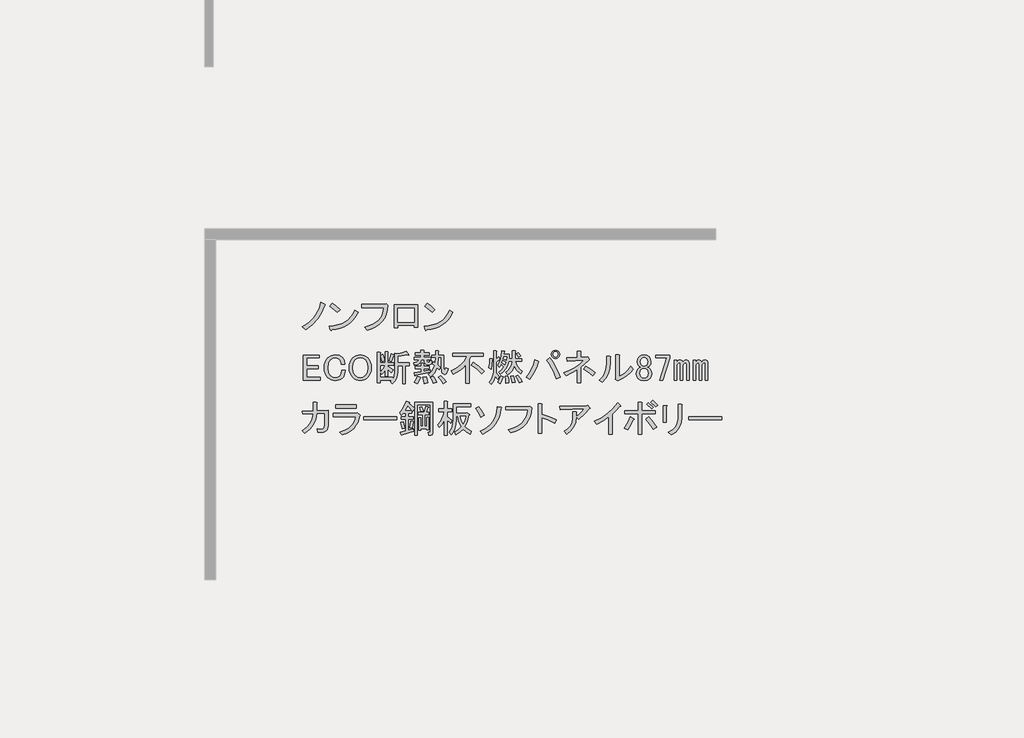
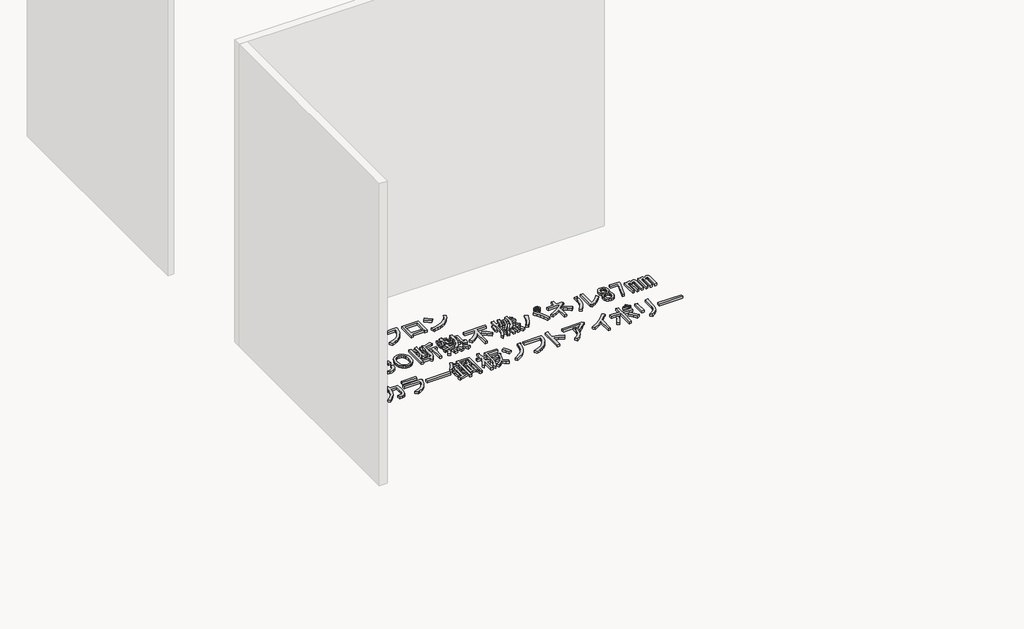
# One storey, part 51 of 117: 1 proxy.
"""IFC4 building model written with IfcOpenShell, lengths in millimetres."""

from ifc_helpers import new_model, si_unit, frame, origin, place, context, project, spatial, polyline, outline, extrude, element, save

model = new_model("IFC4")

# Units and contexts
model_context = context("Model", 3, world=origin())
ifc_project = project(units=[si_unit("LENGTHUNIT", "METRE", prefix="MILLI")], contexts=[model_context])

# Site, building, storey
site = spatial("IfcSite", under=ifc_project)
building = spatial("IfcBuilding", under=site)
storey = spatial("IfcBuildingStorey", under=building, Name="レベル 1", Elevation=500.0)

# Proxy
placement = place(None, origin())
element("IfcBuildingElementProxy", 1, Name="200㎜\u3000MS Pゴシック", ObjectType="200㎜\u3000MS Pゴシック", at=placement, inside=storey, context=model_context, shape_type="SweptSolid", body=[
    extrude(outline(polyline([(24937.1706985, -600.5496882), (24911.5952502, -660.3215225), (24883.146156, -706.2998566), (24841.4782907, -751.7034615), (24792.3389462, -789.060858), (24764.7519457, -767.2211493), (24812.4544673, -736.7605029), (24852.1107805, -698.2536481), (24869.4963381, -674.3305462), (24884.8703435, -646.2406577), (24898.2327969, -613.9839827), (24909.5836981, -577.5605212), (24940.6190736, -591.3540214), (24943.7800841, -595.9518548), (24937.1706985, -600.5496882)])), frame((0.0, 0.0, 500.0), z_axis=(0.0, 0.0, 1.0), x_axis=(1.0, 0.0, 0.0)), (0.0, 0.0, 1.0), 25.0),
    extrude(outline(polyline([(25036.8977052, -655.7236891), (24978.2753292, -608.5958967), (24997.8161212, -584.4572713), (25025.1157571, -604.2854279), (25058.7374138, -633.8839804), (25036.8977052, -655.7236891)])), frame((0.0, 0.0, 500.0), z_axis=(0.0, 0.0, 1.0), x_axis=(1.0, 0.0, 0.0)), (0.0, 0.0, 1.0), 25.0),
    extrude(outline(polyline([(25198.9713328, -655.7236891), (25182.447869, -685.465924), (25163.3381239, -711.4724192), (25141.6420975, -733.7431748), (25117.3597898, -752.2781907), (25090.4912008, -767.077467), (25061.0363306, -778.1410036), (25028.995179, -785.4688006), (24994.3677461, -789.060858), (24988.6204544, -797.1070664), (24982.8731626, -791.3597747), (24973.6774958, -761.4738575), (25009.5082679, -758.7977748), (25042.2857912, -752.4937141), (25072.0100658, -742.5616756), (25098.6810916, -729.0016591), (25122.2988687, -711.8136646), (25142.863397, -690.9976923), (25160.3746766, -666.553742), (25174.8327074, -638.4818138), (25198.9713328, -655.7236891)])), frame((0.0, 0.0, 500.0), z_axis=(0.0, 0.0, 1.0), x_axis=(1.0, 0.0, 0.0)), (0.0, 0.0, 1.0), 25.0),
    extrude(outline(polyline([(25249.7314136, -770.6695243), (25283.514713, -760.9889298), (25313.0234641, -748.6142922), (25338.257667, -733.5456116), (25359.2173217, -715.782888), (25375.902428, -695.3261214), (25388.3129862, -672.1753118), (25396.4489961, -646.3304591), (25400.3104577, -617.7915635), (25227.8917049, -617.7915635), (25227.8917049, -592.5034798), (25402.6093744, -592.5034798), (25418.7017914, -589.0551047), (25431.3458332, -600.5496882), (25427.825617, -637.0449909), (25419.5638851, -670.0919185), (25406.5606375, -699.6904711), (25388.8158742, -725.8406486), (25366.3295952, -748.542451), (25339.1018005, -767.7958784), (25307.1324901, -783.6009308), (25270.421664, -795.9576081), (25249.7314136, -770.6695243)])), frame((0.0, 0.0, 500.0), z_axis=(0.0, 0.0, 1.0), x_axis=(1.0, 0.0, 0.0)), (0.0, 0.0, 1.0), 25.0),
    extrude(outline(polyline([(25664.455987, -769.520066), (25638.0184449, -769.520066), (25638.0184449, -756.8760241), (25510.4285679, -756.8760241), (25510.4285679, -775.2673577), (25483.9910258, -775.2673577), (25483.9910258, -595.9518548), (25664.455987, -595.9518548), (25664.455987, -769.520066)]), holes=[polyline([(25510.4285679, -621.2399386), (25510.4285679, -731.5879404), (25638.0184449, -731.5879404), (25638.0184449, -621.2399386), (25510.4285679, -621.2399386)])]), frame((0.0, 0.0, 500.0), z_axis=(0.0, 0.0, 1.0), x_axis=(1.0, 0.0, 0.0)), (0.0, 0.0, 1.0), 25.0),
    extrude(outline(polyline([(25940.5099049, -655.7236891), (25923.9864411, -685.465924), (25904.876696, -711.4724192), (25883.1806696, -733.7431748), (25858.8983619, -752.2781907), (25832.0297729, -767.077467), (25802.5749026, -778.1410036), (25770.5337511, -785.4688006), (25735.9063182, -789.060858), (25730.1590264, -797.1070664), (25724.4117347, -791.3597747), (25715.2160679, -761.4738575), (25751.0468399, -758.7977748), (25783.8243633, -752.4937141), (25813.5486378, -742.5616756), (25840.2196637, -729.0016591), (25863.8374407, -711.8136646), (25884.4019691, -690.9976923), (25901.9132486, -666.553742), (25916.3712795, -638.4818138), (25940.5099049, -655.7236891)])), frame((0.0, 0.0, 500.0), z_axis=(0.0, 0.0, 1.0), x_axis=(1.0, 0.0, 0.0)), (0.0, 0.0, 1.0), 25.0),
    extrude(outline(polyline([(25778.4362772, -655.7236891), (25719.8139013, -608.5958967), (25739.3546933, -584.4572713), (25766.6543291, -604.2854279), (25800.2759859, -633.8839804), (25778.4362772, -655.7236891)])), frame((0.0, 0.0, 500.0), z_axis=(0.0, 0.0, 1.0), x_axis=(1.0, 0.0, 0.0)), (0.0, 0.0, 1.0), 25.0),
    extrude(outline(polyline([(24770.4992375, -989.0551047), (24896.9396562, -989.0551047), (24896.9396562, -1010.8948134), (24796.9367796, -1010.8948134), (24796.9367796, -1071.816106), (24890.0429061, -1071.816106), (24890.0429061, -1093.6558147), (24796.9367796, -1093.6558147), (24796.9367796, -1163.7727742), (24902.686948, -1163.7727742), (24902.686948, -1185.6124829), (24770.4992375, -1185.6124829), (24770.4992375, -989.0551047)])), frame((0.0, 0.0, 500.0), z_axis=(0.0, 0.0, 1.0), x_axis=(1.0, 0.0, 0.0)), (0.0, 0.0, 1.0), 25.0),
    extrude(outline(polyline([(24934.7798252, -1087.908523), (24936.5758538, -1063.985421), (24941.9639399, -1042.7922827), (24950.9440832, -1024.3291079), (24963.516284, -1008.5958967), (24988.5170031, -992.2161152), (25019.8397432, -986.756188), (25050.5877541, -991.641386), (25073.8642858, -1006.29698), (25089.6693381, -1029.8608762), (25095.7039944, -1059.1720642), (25068.116994, -1059.1720642), (25063.231796, -1037.9070847), (25053.1740354, -1022.3893969), (25037.9437123, -1012.0442717), (25019.8397432, -1008.5958967), (25000.2989512, -1012.6190009), (24983.0570759, -1024.6883136), (24974.0050914, -1036.3984206), (24967.5393882, -1050.8384911), (24962.3668256, -1087.908523), (24967.5393882, -1124.9785548), (24974.0050914, -1139.4186254), (24983.0570759, -1151.1287323), (24999.7242221, -1162.3359513), (25019.8397432, -1166.0716909), (25040.242629, -1162.9106804), (25055.4729521, -1153.427649), (25067.5422648, -1133.8868571), (25071.5653691, -1107.449315), (25099.1523695, -1107.449315), (25092.8303486, -1142.2204301), (25085.7899162, -1156.3731361), (25076.1632025, -1168.3706076), (25065.3151893, -1176.9197041), (25052.3119417, -1183.0262016), (25019.8397432, -1187.9113996), (24988.5170031, -1182.4514724), (24963.516284, -1166.0716909), (24950.9440832, -1150.4103209), (24941.9639399, -1132.1626695), (24936.5758538, -1111.3287369), (24934.7798252, -1087.908523)])), frame((0.0, 0.0, 500.0), z_axis=(0.0, 0.0, 1.0), x_axis=(1.0, 0.0, 0.0)), (0.0, 0.0, 1.0), 25.0),
    extrude(outline(polyline([(25130.1417667, -1086.7590646), (25131.8659542, -1063.9135799), (25137.0385168, -1043.6543764), (25145.6594544, -1025.9814543), (25157.7287671, -1010.8948134), (25170.4446501, -1000.3341648), (25184.4536738, -992.7908443), (25199.7558381, -988.2648521), (25216.3511431, -986.756188), (25232.946448, -988.2648521), (25248.2486123, -992.7908443), (25262.257636, -1000.3341648), (25274.973519, -1010.8948134), (25287.0428317, -1025.9814543), (25295.6637694, -1043.6543764), (25300.836332, -1063.9135799), (25302.5605195, -1086.7590646), (25300.836332, -1109.6045494), (25295.6637694, -1129.8637528), (25287.0428317, -1147.536675), (25274.973519, -1162.6233159), (25262.257636, -1173.1839645), (25248.2486123, -1180.7272849), (25232.946448, -1185.2532772), (25216.3511431, -1186.7619413), (25199.7558381, -1185.2532772), (25184.4536738, -1180.7272849), (25170.4446501, -1173.1839645), (25157.7287671, -1162.6233159), (25145.6594544, -1147.536675), (25137.0385168, -1129.8637528), (25131.8659542, -1109.6045494), (25130.1417667, -1086.7590646)]), holes=[polyline([(25216.3511431, -1008.5958967), (25195.6608927, -1012.9063655), (25177.2695591, -1025.837772), (25168.7204626, -1036.9731498), (25162.6139651, -1050.8384911), (25157.7287671, -1086.7590646), (25162.6139651, -1122.6796381), (25168.7204626, -1136.5449795), (25177.2695591, -1147.6803573), (25195.6608927, -1160.6117637), (25216.3511431, -1164.9222326), (25237.0413934, -1160.6117637), (25255.432727, -1147.6803573), (25263.9818235, -1136.5449795), (25270.088321, -1122.6796381), (25274.973519, -1086.7590646), (25270.088321, -1050.8384911), (25263.9818235, -1036.9731498), (25255.432727, -1025.837772), (25237.0413934, -1012.9063655), (25216.3511431, -1008.5958967)])]), frame((0.0, 0.0, 500.0), z_axis=(0.0, 0.0, 1.0), x_axis=(1.0, 0.0, 0.0)), (0.0, 0.0, 1.0), 25.0),
    extrude(outline(polyline([(25441.3691101, -1032.7345221), (25458.6109854, -979.8594379), (25479.3012357, -985.6067296), (25481.0254232, -988.7677401), (25477.002319, -991.3540214), (25459.7604437, -1039.6312722), (25441.3691101, -1032.7345221)])), frame((0.0, 0.0, 500.0), z_axis=(0.0, 0.0, 1.0), x_axis=(1.0, 0.0, 0.0)), (0.0, 0.0, 1.0), 25.0),
    extrude(outline(polyline([(25595.3965292, -984.4572713), (25593.6723417, -989.0551047), (25586.2008624, -986.756188), (25509.1871528, -999.4002299), (25509.1871528, -1048.826939), (25601.143821, -1048.826939), (25601.143821, -1070.6666477), (25570.1084455, -1070.6666477), (25570.1084455, -1210.9005666), (25547.1192785, -1210.9005666), (25547.1192785, -1070.6666477), (25509.1871528, -1070.6666477), (25509.1871528, -1120.0933568), (25506.6008716, -1147.8958807), (25498.8420277, -1172.6810764), (25485.9106212, -1194.448944), (25467.8066522, -1213.1994833), (25450.5647769, -1193.6586914), (25460.9099021, -1184.4630245), (25371.2521506, -1184.4630245), (25371.2521506, -1206.3027332), (25348.2629836, -1206.3027332), (25348.2629836, -967.215396), (25370.1026922, -967.215396), (25374.9878902, -969.5143127), (25371.2521506, -974.1121461), (25371.2521506, -1049.9763974), (25413.7821096, -1049.9763974), (25413.7821096, -962.6175626), (25432.1734433, -962.6175626), (25437.0586413, -964.9164793), (25433.3229016, -969.5143127), (25433.3229016, -1049.9763974), (25477.002319, -1049.9763974), (25477.002319, -1068.367731), (25433.3229016, -1068.367731), (25433.3229016, -1077.5633978), (25473.5539439, -1104.0009399), (25459.7604437, -1125.8406486), (25433.3229016, -1099.4031065), (25433.3229016, -1152.2781907), (25413.7821096, -1152.2781907), (25413.7821096, -1104.0009399), (25400.5633386, -1123.8290965), (25386.1951092, -1139.6341488), (25373.5510673, -1121.2428152), (25395.390776, -1097.1041898), (25412.6326513, -1068.367731), (25371.2521506, -1068.367731), (25371.2521506, -1162.6233159), (25468.9561105, -1162.6233159), (25468.9561105, -1176.4168161), (25481.887517, -1152.2781907), (25486.1979858, -1118.9438985), (25486.1979858, -974.1121461), (25508.0376945, -979.8594379), (25544.2456326, -972.3879586), (25574.7062789, -959.1691875), (25595.3965292, -984.4572713)])), frame((0.0, 0.0, 500.0), z_axis=(0.0, 0.0, 1.0), x_axis=(1.0, 0.0, 0.0)), (0.0, 0.0, 1.0), 25.0),
    extrude(outline(polyline([(25387.3445675, -1040.7807305), (25374.7005257, -990.2045631), (25394.2413176, -983.3078129), (25402.0001615, -1007.4464383), (25406.8853595, -1033.8839804), (25387.3445675, -1040.7807305)])), frame((0.0, 0.0, 500.0), z_axis=(0.0, 0.0, 1.0), x_axis=(1.0, 0.0, 0.0)), (0.0, 0.0, 1.0), 25.0),
    extrude(outline(polyline([(25731.0326148, -1156.8760241), (25741.0903754, -1184.17566), (25745.9755734, -1206.3027332), (25717.2391146, -1212.050025), (25714.6528333, -1190.4976809), (25706.8939894, -1160.3243992), (25731.0326148, -1156.8760241)])), frame((0.0, 0.0, 500.0), z_axis=(0.0, 0.0, 1.0), x_axis=(1.0, 0.0, 0.0)), (0.0, 0.0, 1.0), 25.0),
    extrude(outline(polyline([(25787.356074, -1209.7511083), (25779.022501, -1185.0377537), (25765.5163654, -1163.7727742), (25786.2066157, -1155.7265657), (25803.1611264, -1177.2789098), (25814.9430745, -1200.5554415), (25787.356074, -1209.7511083)])), frame((0.0, 0.0, 500.0), z_axis=(0.0, 0.0, 1.0), x_axis=(1.0, 0.0, 0.0)), (0.0, 0.0, 1.0), 25.0),
    extrude(outline(polyline([(25686.2037391, -1161.4738575), (25689.6521141, -1166.3590555), (25683.9048224, -1169.520066), (25674.1344264, -1195.0955143), (25663.214572, -1214.3489417), (25640.225405, -1202.8543582), (25652.8694469, -1179.290462), (25663.214572, -1152.2781907), (25686.2037391, -1161.4738575)])), frame((0.0, 0.0, 500.0), z_axis=(0.0, 0.0, 1.0), x_axis=(1.0, 0.0, 0.0)), (0.0, 0.0, 1.0), 25.0),
    extrude(outline(polyline([(25718.3885729, -1024.6883136), (25693.1004892, -1024.6883136), (25688.5026558, -1042.1457123), (25678.1575306, -1055.4363245), (25662.0651137, -1064.5601502), (25640.225405, -1069.5171893), (25635.6275716, -1049.9763974), (25660.9156553, -1041.3554597), (25668.3871346, -1034.0276627), (25672.4102388, -1024.6883136), (25636.7770299, -1024.6883136), (25636.7770299, -1006.29698), (25690.8015725, -1006.29698), (25690.8015725, -989.0551047), (25647.1221551, -989.0551047), (25647.1221551, -970.6637711), (25690.8015725, -970.6637711), (25690.8015725, -952.2724374), (25712.6412812, -952.2724374), (25717.5264792, -954.5713541), (25713.7907395, -959.1691875), (25713.7907395, -970.6637711), (25756.3206985, -970.6637711), (25756.3206985, -989.0551047), (25713.7907395, -989.0551047), (25713.7907395, -1006.29698), (25766.6658237, -1006.29698), (25766.6658237, -1024.6883136), (25737.9293649, -1024.6883136), (25737.9293649, -1037.3323555), (25739.3661878, -1042.5049181), (25743.6766567, -1044.2291056), (25754.0217818, -1044.2291056), (25757.7575215, -1041.0680951), (25757.4701569, -1031.5850637), (25777.0109489, -1033.8839804), (25774.137303, -1055.4363245), (25768.8210581, -1060.8244106), (25760.9185319, -1062.6204392), (25736.7799066, -1062.6204392), (25722.9864063, -1057.7352412), (25718.3885729, -1043.0796472), (25718.3885729, -1024.6883136)])), frame((0.0, 0.0, 500.0), z_axis=(0.0, 0.0, 1.0), x_axis=(1.0, 0.0, 0.0)), (0.0, 0.0, 1.0), 25.0),
    extrude(outline(polyline([(25849.4268251, -1007.4464383), (25827.5871164, -1007.4464383), (25822.989283, -1064.9193559), (25842.5300749, -1083.3106896), (25832.1849498, -1105.1503983), (25816.0925328, -1089.0579813), (25796.8391054, -1126.7027424), (25766.6658237, -1159.1749408), (25749.4239484, -1138.4846905), (25764.5105893, -1126.5590601), (25777.585678, -1111.4724192), (25788.6492147, -1093.2247679), (25797.7011992, -1071.816106), (25780.4593239, -1056.8731475), (25788.5055324, -1039.6312722), (25802.2990326, -1049.9763974), (25804.5979493, -1007.4464383), (25777.0109489, -1007.4464383), (25777.0109489, -989.0551047), (25804.5979493, -989.0551047), (25804.5979493, -954.5713541), (25826.437658, -954.5713541), (25831.322856, -956.8702708), (25827.5871164, -961.4681043), (25827.5871164, -989.0551047), (25868.967617, -989.0551047), (25868.967617, -1085.6096063), (25872.4159921, -1109.7482317), (25875.6488437, -1111.7597838), (25878.4506484, -1108.5987733), (25882.7611173, -1086.7590646), (25902.3019092, -1093.6558147), (25897.775917, -1120.4525626), (25889.945232, -1136.4731384), (25878.8098542, -1141.7175421), (25864.3697836, -1136.1857738), (25857.8322393, -1128.8579768), (25853.1625647, -1117.219711), (25849.4268251, -1081.0117729), (25849.4268251, -1007.4464383)])), frame((0.0, 0.0, 500.0), z_axis=(0.0, 0.0, 1.0), x_axis=(1.0, 0.0, 0.0)), (0.0, 0.0, 1.0), 25.0),
    extrude(outline(polyline([(25648.2716134, -1146.5308989), (25646.2600613, -1151.4160969), (25642.5243217, -1149.979274), (25636.7770299, -1125.8406486), (25691.9510308, -1117.7944401), (25691.9510308, -1094.8052731), (25648.2716134, -1094.8052731), (25648.2716134, -1076.4139395), (25691.9510308, -1076.4139395), (25691.9510308, -1053.4247724), (25710.3423645, -1053.4247724), (25715.2275625, -1055.7236891), (25711.4918228, -1060.3215225), (25711.4918228, -1076.4139395), (25756.3206985, -1076.4139395), (25756.3206985, -1094.8052731), (25711.4918228, -1094.8052731), (25711.4918228, -1114.3460651), (25762.0679903, -1105.1503983), (25762.0679903, -1121.2428152), (25648.2716134, -1146.5308989)])), frame((0.0, 0.0, 500.0), z_axis=(0.0, 0.0, 1.0), x_axis=(1.0, 0.0, 0.0)), (0.0, 0.0, 1.0), 25.0),
    extrude(outline(polyline([(25845.97845, -1151.1287323), (25870.6918046, -1172.3937119), (25889.6578674, -1197.1070664), (25863.2203253, -1212.050025), (25843.9668979, -1182.4514724), (25825.2881997, -1162.6233159), (25845.97845, -1151.1287323)])), frame((0.0, 0.0, 500.0), z_axis=(0.0, 0.0, 1.0), x_axis=(1.0, 0.0, 0.0)), (0.0, 0.0, 1.0), 25.0),
    extrude(outline(polyline([(26164.3784135, -1135.0363154), (26125.2968295, -1096.8168252), (26083.9163289, -1067.2182726), (26100.0087458, -1046.5280223), (26143.6881632, -1074.6897519), (26185.0686638, -1113.1966067), (26164.3784135, -1135.0363154)])), frame((0.0, 0.0, 500.0), z_axis=(0.0, 0.0, 1.0), x_axis=(1.0, 0.0, 0.0)), (0.0, 0.0, 1.0), 25.0),
    extrude(outline(polyline([(25937.9351182, -974.1121461), (26179.3213721, -974.1121461), (26179.3213721, -999.4002299), (26079.3184955, -999.4002299), (26068.9733703, -1023.5388553), (26068.9733703, -1209.7511083), (26042.5358282, -1209.7511083), (26042.5358282, -1062.6204392), (26021.7018956, -1085.8969709), (25998.2816816, -1106.2998566), (25972.2751864, -1123.8290965), (25943.6824099, -1138.4846905), (25927.589993, -1112.0471484), (25967.174465, -1091.6442626), (26000.8679629, -1066.0688143), (26028.6704868, -1035.3208034), (26050.5820367, -999.4002299), (25937.9351182, -999.4002299), (25937.9351182, -974.1121461)])), frame((0.0, 0.0, 500.0), z_axis=(0.0, 0.0, 1.0), x_axis=(1.0, 0.0, 0.0)), (0.0, 0.0, 1.0), 25.0),
    extrude(outline(polyline([(26351.7401249, -1208.6016499), (26352.3148541, -1181.5893787), (26349.4412082, -1153.427649), (26368.9820002, -1152.2781907), (26375.3040211, -1178.4283682), (26375.8787503, -1206.3027332), (26351.7401249, -1208.6016499)])), frame((0.0, 0.0, 500.0), z_axis=(0.0, 0.0, 1.0), x_axis=(1.0, 0.0, 0.0)), (0.0, 0.0, 1.0), 25.0),
    extrude(outline(polyline([(26332.1993329, -1156.8760241), (26323.5783953, -1187.3366704), (26309.2101659, -1214.3489417), (26289.6693739, -1201.7048998), (26303.7502387, -1176.9915453), (26313.8079993, -1148.8298156), (26332.1993329, -1156.8760241)])), frame((0.0, 0.0, 500.0), z_axis=(0.0, 0.0, 1.0), x_axis=(1.0, 0.0, 0.0)), (0.0, 0.0, 1.0), 25.0),
    extrude(outline(polyline([(26247.1394149, -1018.9410219), (26251.7372483, -1021.2399386), (26247.1394149, -1025.837772), (26245.9899565, -1065.4940851), (26240.2426647, -1099.4031065), (26221.8513311, -1086.7590646), (26227.5986229, -1052.2753141), (26228.7480812, -1015.4926468), (26247.1394149, -1018.9410219)])), frame((0.0, 0.0, 500.0), z_axis=(0.0, 0.0, 1.0), x_axis=(1.0, 0.0, 0.0)), (0.0, 0.0, 1.0), 25.0),
    extrude(outline(polyline([(26298.8650407, -1000.5496882), (26308.0607075, -1017.7915635), (26309.4975305, -1023.8262199), (26304.6123325, -1023.5388553), (26278.1747904, -1044.2291056), (26278.1747904, -1128.1395653), (26291.9682906, -1140.4962426), (26303.4628741, -1156.8760241), (26290.8188322, -1177.5662744), (26272.4274986, -1152.2781907), (26260.6455505, -1188.1987642), (26239.0932064, -1217.7973168), (26224.1502478, -1199.4059831), (26239.2368887, -1180.6554438), (26250.0130607, -1160.0370346), (26256.478764, -1137.5507556), (26258.6339984, -1113.1966067), (26258.6339984, -955.7208125), (26277.025332, -955.7208125), (26281.91053, -958.0197292), (26278.1747904, -962.6175626), (26278.1747904, -1021.2399386), (26298.8650407, -1000.5496882)])), frame((0.0, 0.0, 500.0), z_axis=(0.0, 0.0, 1.0), x_axis=(1.0, 0.0, 0.0)), (0.0, 0.0, 1.0), 25.0),
    extrude(outline(polyline([(26449.4440848, -969.5143127), (26471.2837935, -993.6529381), (26454.0419182, -1005.1475216), (26447.4325327, -993.6529381), (26434.5011262, -979.8594379), (26449.4440848, -969.5143127)])), frame((0.0, 0.0, 500.0), z_axis=(0.0, 0.0, 1.0), x_axis=(1.0, 0.0, 0.0)), (0.0, 0.0, 1.0), 25.0),
    extrude(outline(polyline([(26459.78921, -1206.3027332), (26446.5704389, -1178.1410036), (26429.9032928, -1153.427649), (26448.2946265, -1145.3814406), (26467.2606893, -1168.3706076), (26482.778377, -1195.9576081), (26459.78921, -1206.3027332)])), frame((0.0, 0.0, 500.0), z_axis=(0.0, 0.0, 1.0), x_axis=(1.0, 0.0, 0.0)), (0.0, 0.0, 1.0), 25.0),
    extrude(outline(polyline([(26410.3625008, -1151.1287323), (26428.7538345, -1200.5554415), (26404.6152091, -1205.1532749), (26390.8217089, -1154.5771074), (26410.3625008, -1151.1287323)])), frame((0.0, 0.0, 500.0), z_axis=(0.0, 0.0, 1.0), x_axis=(1.0, 0.0, 0.0)), (0.0, 0.0, 1.0), 25.0),
    extrude(outline(polyline([(26471.2837935, -1136.1857738), (26440.5357826, -1105.7251274), (26419.5581677, -1071.816106), (26411.1527535, -1093.9431793), (26399.7300111, -1113.1966067), (26385.2899405, -1129.5763882), (26367.8325418, -1143.0825239), (26354.0390416, -1124.6911902), (26374.8729742, -1105.7969686), (26390.2469797, -1084.7475125), (26400.161058, -1061.542822), (26404.6152091, -1036.1828971), (26375.8787503, -1036.1828971), (26367.904383, -1066.7872258), (26354.3264062, -1094.2305439), (26335.1448199, -1118.5128516), (26310.3596242, -1139.6341488), (26297.7155823, -1123.5417319), (26323.5783953, -1101.9893878), (26339.096083, -1081.0117729), (26317.2563743, -1061.4709809), (26303.4628741, -1082.1612312), (26289.6693739, -1067.2182726), (26302.0978923, -1048.1803687), (26311.7964472, -1023.2514907), (26318.7650384, -992.4316386), (26323.0036661, -955.7208125), (26343.6939164, -958.0197292), (26347.1422915, -960.6060105), (26341.3949997, -963.767021), (26339.096083, -982.1583546), (26382.7755004, -982.1583546), (26379.3271253, -1017.7915635), (26404.6152091, -1017.7915635), (26404.6152091, -955.7208125), (26426.4549178, -955.7208125), (26431.3401158, -958.0197292), (26427.6043761, -962.6175626), (26427.6043761, -1017.7915635), (26477.0310853, -1017.7915635), (26477.0310853, -1036.1828971), (26427.6043761, -1036.1828971), (26434.1419205, -1057.9507647), (26445.7083452, -1078.4254916), (26462.3036501, -1097.6070778), (26483.9278354, -1115.4955234), (26471.2837935, -1136.1857738)]), holes=[polyline([(26347.1422915, -1066.0688143), (26354.0390416, -1046.5280223), (26328.7509579, -1030.4356054), (26323.0036661, -1047.6774807), (26347.1422915, -1066.0688143)]), polyline([(26336.7971663, -1000.5496882), (26333.3487913, -1016.6421052), (26358.636875, -1030.4356054), (26363.2347084, -1000.5496882), (26336.7971663, -1000.5496882)])]), frame((0.0, 0.0, 500.0), z_axis=(0.0, 0.0, 1.0), x_axis=(1.0, 0.0, 0.0)), (0.0, 0.0, 1.0), 25.0),
    extrude(outline(polyline([(26696.5776305, -1009.745355), (26723.230696, -1046.4561812), (26745.7169751, -1084.1727833), (26764.0364675, -1122.8951616), (26778.1891735, -1162.6233159), (26747.153798, -1172.968441), (26731.7079514, -1129.8637528), (26714.1068704, -1091.356898), (26694.350555, -1057.4478766), (26672.4390051, -1028.1366887), (26696.5776305, -1009.745355)])), frame((0.0, 0.0, 500.0), z_axis=(0.0, 0.0, 1.0), x_axis=(1.0, 0.0, 0.0)), (0.0, 0.0, 1.0), 25.0),
    extrude(outline(polyline([(26609.2187958, -1036.1828971), (26613.2419, -1041.6428243), (26606.919879, -1046.5280223), (26594.9942486, -1081.9457078), (26579.9076078, -1115.782888), (26561.6599564, -1148.039563), (26540.2512946, -1178.7157328), (26513.8137525, -1161.4738575), (26537.018443, -1130.0074351), (26556.056347, -1096.5294606), (26570.9274644, -1061.039934), (26581.6317953, -1023.5388553), (26609.2187958, -1036.1828971)])), frame((0.0, 0.0, 500.0), z_axis=(0.0, 0.0, 1.0), x_axis=(1.0, 0.0, 0.0)), (0.0, 0.0, 1.0), 25.0),
    extrude(outline(polyline([(26742.5559646, -1015.4926468), (26729.9119227, -1013.1937301), (26719.5667975, -1006.29698), (26712.6700474, -995.9518548), (26710.3711307, -983.3078129), (26712.6700474, -970.6637711), (26719.5667975, -960.3186459), (26729.9119227, -953.4218958), (26742.5559646, -951.1229791), (26755.2000065, -953.4218958), (26765.5451316, -960.3186459), (26772.4418817, -970.6637711), (26774.7407984, -983.3078129), (26772.4418817, -995.9518548), (26765.5451316, -1006.29698), (26755.2000065, -1013.1937301), (26742.5559646, -1015.4926468)]), holes=[polyline([(26742.5559646, -1003.9980633), (26750.8895376, -1002.5612403), (26757.4989232, -998.2507715), (26761.809392, -991.641386), (26763.2462149, -983.3078129), (26761.809392, -974.9742399), (26757.4989232, -968.3648544), (26750.8895376, -964.0543855), (26742.5559646, -962.6175626), (26734.2223915, -964.0543855), (26727.613006, -968.3648544), (26723.3025372, -974.9742399), (26721.8657143, -983.3078129), (26723.3025372, -991.641386), (26727.613006, -998.2507715), (26734.2223915, -1002.5612403), (26742.5559646, -1003.9980633)])]), frame((0.0, 0.0, 500.0), z_axis=(0.0, 0.0, 1.0), x_axis=(1.0, 0.0, 0.0)), (0.0, 0.0, 1.0), 25.0),
    extrude(outline(polyline([(26986.2411352, -1005.1475216), (26993.1378853, -1002.8486049), (27005.7819272, -1020.0904802), (27006.9313856, -1026.1251366), (27001.1840938, -1028.1366887), (26937.9638844, -1084.4601479), (26937.9638844, -1205.1532749), (26911.5263423, -1205.1532749), (26911.5263423, -1102.8514816), (26871.2953, -1126.9901069), (26826.4664243, -1148.8298156), (26806.9256323, -1128.1395653), (26852.4729195, -1108.6706145), (26893.7097379, -1085.8969709), (26930.6360874, -1059.8186345), (26963.2519682, -1030.4356054), (26833.3631744, -1036.1828971), (26829.9147993, -1010.8948134), (26911.5263423, -1008.5958967), (26911.5263423, -956.8702708), (26934.5155094, -956.8702708), (26940.5501657, -960.3186459), (26937.9638844, -966.0659377), (26937.9638844, -1007.4464383), (26986.2411352, -1005.1475216)])), frame((0.0, 0.0, 500.0), z_axis=(0.0, 0.0, 1.0), x_axis=(1.0, 0.0, 0.0)), (0.0, 0.0, 1.0), 25.0),
    extrude(outline(polyline([(27032.2194693, -1148.8298156), (26995.1494375, -1119.5186277), (26962.1025098, -1098.2536481), (26979.3443851, -1076.4139395), (27018.1386045, -1099.6904711), (27051.7602613, -1125.8406486), (27032.2194693, -1148.8298156)])), frame((0.0, 0.0, 500.0), z_axis=(0.0, 0.0, 1.0), x_axis=(1.0, 0.0, 0.0)), (0.0, 0.0, 1.0), 25.0),
    extrude(outline(polyline([(27239.2139293, -1155.7265657), (27263.9991251, -1143.5135708), (27287.7785447, -1126.4153778), (27310.5521883, -1104.4319868), (27332.3200559, -1077.5633978), (27348.4124728, -1099.4031065), (27325.1359412, -1127.2056304), (27298.9857636, -1150.8413678), (27269.9619403, -1170.3103186), (27238.064471, -1185.6124829), (27228.8688042, -1190.2103163), (27210.4774705, -1176.4168161), (27212.7763872, -1170.6695243), (27212.7763872, -985.6067296), (27236.9150126, -985.6067296), (27242.6623044, -989.0551047), (27239.2139293, -994.8023965), (27239.2139293, -1155.7265657)])), frame((0.0, 0.0, 500.0), z_axis=(0.0, 0.0, 1.0), x_axis=(1.0, 0.0, 0.0)), (0.0, 0.0, 1.0), 25.0),
    extrude(outline(polyline([(27085.1865102, -1186.7619413), (27110.3309116, -1157.5225944), (27128.2911984, -1124.9785548), (27139.0673704, -1089.1298225), (27142.6594278, -1049.9763974), (27142.6594278, -998.2507715), (27166.7980532, -998.2507715), (27172.5453449, -1001.6991466), (27169.0969699, -1007.4464383), (27169.0969699, -1048.826939), (27165.2893891, -1094.5897496), (27153.8666467, -1135.32368), (27134.8287427, -1171.0287301), (27108.1756772, -1201.7048998), (27085.1865102, -1186.7619413)])), frame((0.0, 0.0, 500.0), z_axis=(0.0, 0.0, 1.0), x_axis=(1.0, 0.0, 0.0)), (0.0, 0.0, 1.0), 25.0),
    extrude(outline(polyline([(27380.5973066, -1041.9301889), (27384.6204109, -1018.9410219), (27396.6897236, -1000.5496882), (27413.0695051, -990.2045631), (27434.6218492, -986.756188), (27456.4615579, -990.4919276), (27473.7034332, -1001.6991466), (27484.9106521, -1019.2283864), (27488.6463917, -1041.9301889), (27485.1980167, -1060.0341579), (27474.8528915, -1075.2644811), (27461.0593913, -1083.3106896), (27461.0593913, -1085.6096063), (27471.1171519, -1089.6327105), (27480.6001833, -1097.1041898), (27490.9453084, -1113.1966067), (27494.3936835, -1133.8868571), (27490.3705793, -1155.1518366), (27478.3012666, -1172.968441), (27459.9099329, -1184.17566), (27434.6218492, -1187.9113996), (27409.3337654, -1184.17566), (27390.9424318, -1172.968441), (27378.8731191, -1155.1518366), (27374.8500149, -1133.8868571), (27378.2983899, -1113.1966067), (27388.6435151, -1097.1041898), (27398.1265465, -1089.6327105), (27408.1843071, -1085.6096063), (27408.1843071, -1083.3106896), (27393.2413485, -1072.9655644), (27383.7583171, -1058.8846996), (27380.5973066, -1041.9301889)]), holes=[polyline([(27434.6218492, -1007.4464383), (27423.9893594, -1009.4579904), (27415.0810572, -1015.4926468), (27408.1843071, -1026.6998657), (27405.8853904, -1041.9301889), (27408.1843071, -1056.2984183), (27415.0810572, -1067.2182726), (27423.7019948, -1073.252929), (27433.4723908, -1075.2644811), (27445.5417035, -1073.5402936), (27454.1626412, -1068.367731), (27461.0593913, -1057.1605121), (27463.358308, -1041.9301889), (27461.0593913, -1026.6998657), (27454.1626412, -1015.4926468), (27445.2543389, -1009.4579904), (27434.6218492, -1007.4464383)]), polyline([(27434.6218492, -1094.8052731), (27421.1157136, -1097.1041898), (27410.4832238, -1104.0009399), (27403.5864737, -1115.2081588), (27401.287557, -1130.438482), (27403.8738383, -1145.9561698), (27411.6326821, -1158.0254825), (27421.9778073, -1164.9222326), (27434.6218492, -1167.2211493), (27447.2658911, -1164.9222326), (27457.6110162, -1158.0254825), (27465.3698601, -1145.9561698), (27467.9561414, -1130.438482), (27465.3698601, -1114.9207942), (27457.6110162, -1102.8514816), (27447.8406202, -1096.8168252), (27434.6218492, -1094.8052731)])]), frame((0.0, 0.0, 500.0), z_axis=(0.0, 0.0, 1.0), x_axis=(1.0, 0.0, 0.0)), (0.0, 0.0, 1.0), 25.0),
    extrude(outline(polyline([(27527.7279757, -989.0551047), (27636.9265191, -989.0551047), (27636.9265191, -1014.3431884), (27581.7525182, -1185.6124829), (27556.4644345, -1185.6124829), (27611.6384354, -1010.8948134), (27527.7279757, -1010.8948134), (27527.7279757, -989.0551047)])), frame((0.0, 0.0, 500.0), z_axis=(0.0, 0.0, 1.0), x_axis=(1.0, 0.0, 0.0)), (0.0, 0.0, 1.0), 25.0),
    extrude(outline(polyline([(27911.6470653, -1025.837772), (27919.9806383, -1027.2745949), (27926.5900239, -1031.5850637), (27931.7625864, -1040.2060014), (27933.486774, -1052.2753141), (27933.486774, -1186.7619413), (27913.945982, -1186.7619413), (27913.945982, -1062.6204392), (27911.3597007, -1053.1374078), (27903.6008568, -1049.9763974), (27893.2557317, -1054.5742308), (27887.2210753, -1063.1951684), (27885.2095232, -1072.9655644), (27885.2095232, -1186.7619413), (27865.6687312, -1186.7619413), (27865.6687312, -1062.6204392), (27863.0824499, -1053.1374078), (27855.323606, -1049.9763974), (27844.9784809, -1054.5742308), (27838.9438245, -1063.1951684), (27836.9322724, -1072.9655644), (27836.9322724, -1186.7619413), (27817.3914804, -1186.7619413), (27817.3914804, -1029.286147), (27836.9322724, -1029.286147), (27836.9322724, -1046.5280223), (27849.0015851, -1031.0103346), (27862.2203561, -1025.837772), (27871.416023, -1027.2745949), (27878.3127731, -1031.5850637), (27885.2095232, -1045.378564), (27898.1409296, -1030.72297), (27911.6470653, -1025.837772)])), frame((0.0, 0.0, 500.0), z_axis=(0.0, 0.0, 1.0), x_axis=(1.0, 0.0, 0.0)), (0.0, 0.0, 1.0), 25.0),
    extrude(outline(polyline([(27689.8016033, -1186.7619413), (27670.2608114, -1186.7619413), (27670.2608114, -1029.286147), (27689.8016033, -1029.286147), (27689.8016033, -1046.5280223), (27701.870916, -1031.0103346), (27715.0896871, -1025.837772), (27724.2853539, -1027.2745949), (27731.182104, -1031.5850637), (27738.0788541, -1045.378564), (27751.0102606, -1030.72297), (27764.5163962, -1025.837772), (27772.8499693, -1027.2745949), (27779.4593548, -1031.5850637), (27784.6319174, -1040.2060014), (27786.3561049, -1052.2753141), (27786.3561049, -1186.7619413), (27766.8153129, -1186.7619413), (27766.8153129, -1062.6204392), (27764.2290316, -1053.1374078), (27756.4701878, -1049.9763974), (27746.1250626, -1054.5742308), (27740.0904062, -1063.1951684), (27738.0788541, -1072.9655644), (27738.0788541, -1186.7619413), (27718.5380621, -1186.7619413), (27718.5380621, -1062.6204392), (27715.9517808, -1053.1374078), (27708.192937, -1049.9763974), (27697.8478118, -1054.5742308), (27691.8131555, -1063.1951684), (27689.8016033, -1072.9655644), (27689.8016033, -1186.7619413)])), frame((0.0, 0.0, 500.0), z_axis=(0.0, 0.0, 1.0), x_axis=(1.0, 0.0, 0.0)), (0.0, 0.0, 1.0), 25.0),
    extrude(outline(polyline([(24940.6190736, -1444.2291056), (24875.0999475, -1446.5280223), (24866.8382156, -1492.793721), (24848.94977, -1533.8868571), (24821.4346107, -1569.8074306), (24784.2927377, -1600.5554415), (24764.7519457, -1581.0146495), (24799.7385843, -1552.7810787), (24825.3858738, -1520.9554506), (24841.6938142, -1485.5377651), (24848.6624054, -1446.5280223), (24767.0508624, -1448.826939), (24764.7519457, -1425.837772), (24849.8118638, -1423.5388553), (24849.8118638, -1359.1691875), (24873.9504892, -1359.1691875), (24880.8472393, -1362.6175626), (24876.2494059, -1368.3648544), (24876.2494059, -1423.5388553), (24967.0566157, -1420.0904802), (24967.0566157, -1491.356898), (24964.4703344, -1539.3467842), (24956.7114905, -1570.6695243), (24950.102105, -1580.7272849), (24940.6190736, -1587.9113996), (24928.2623963, -1592.2218684), (24913.0320731, -1593.6586914), (24885.4450727, -1593.6586914), (24881.9966976, -1564.9222326), (24911.8826148, -1567.2211493), (24925.9634796, -1564.3475034), (24933.7223235, -1555.7265657), (24938.8948861, -1530.438482), (24940.6190736, -1491.356898), (24940.6190736, -1444.2291056)])), frame((0.0, 0.0, 500.0), z_axis=(0.0, 0.0, 1.0), x_axis=(1.0, 0.0, 0.0)), (0.0, 0.0, 1.0), 25.0),
    extrude(outline(polyline([(25055.4729521, -1590.2103163), (25105.1151847, -1571.8908238), (25125.3564279, -1559.7676303), (25142.5444223, -1545.6688052), (25156.679168, -1529.5943485), (25167.7606649, -1511.5442603), (25175.7889131, -1491.5185406), (25180.7639125, -1469.5171893), (25006.046243, -1469.5171893), (25006.046243, -1444.2291056), (25181.9133709, -1444.2291056), (25192.258496, -1440.7807305), (25212.9487464, -1453.4247724), (25215.8223922, -1458.8846996), (25210.6498297, -1463.7698976), (25204.5253719, -1491.2491363), (25195.3476653, -1516.2139349), (25183.1167101, -1538.6642933), (25167.832506, -1558.6002116), (25149.4950533, -1576.0216898), (25128.1043517, -1590.9287278), (25103.6604015, -1603.3213256), (25076.1632025, -1613.1994833), (25055.4729521, -1590.2103163)])), frame((0.0, 0.0, 500.0), z_axis=(0.0, 0.0, 1.0), x_axis=(1.0, 0.0, 0.0)), (0.0, 0.0, 1.0), 25.0),
    extrude(outline(polyline([(25185.3617459, -1403.9980633), (25026.7364933, -1403.9980633), (25026.7364933, -1378.7099795), (25185.3617459, -1378.7099795), (25185.3617459, -1403.9980633)])), frame((0.0, 0.0, 500.0), z_axis=(0.0, 0.0, 1.0), x_axis=(1.0, 0.0, 0.0)), (0.0, 0.0, 1.0), 25.0),
    extrude(outline(polyline([(25244.3979269, -1494.8052731), (25244.3979269, -1469.5171893), (25500.7271394, -1469.5171893), (25500.7271394, -1494.8052731), (25244.3979269, -1494.8052731)])), frame((0.0, 0.0, 500.0), z_axis=(0.0, 0.0, 1.0), x_axis=(1.0, 0.0, 0.0)), (0.0, 0.0, 1.0), 25.0),
    extrude(outline(polyline([(25695.8591892, -1391.3540214), (25703.0433039, -1406.5843446), (25708.5032311, -1426.9872303), (25691.2613558, -1432.7345221), (25679.7667723, -1395.9518548), (25695.8591892, -1391.3540214)])), frame((0.0, 0.0, 500.0), z_axis=(0.0, 0.0, 1.0), x_axis=(1.0, 0.0, 0.0)), (0.0, 0.0, 1.0), 25.0),
    extrude(outline(polyline([(25748.7342734, -1392.5034798), (25751.3205547, -1395.9518548), (25745.2858984, -1399.4002299), (25732.6418565, -1437.3323555), (25753.3321068, -1437.3323555), (25753.3321068, -1455.7236891), (25722.2967313, -1455.7236891), (25722.2967313, -1544.2319822), (25737.2396899, -1544.2319822), (25737.2396899, -1476.4139395), (25753.3321068, -1476.4139395), (25753.3321068, -1570.6695243), (25737.2396899, -1570.6695243), (25737.2396899, -1562.6233159), (25691.2613558, -1562.6233159), (25691.2613558, -1575.2673577), (25675.1689389, -1575.2673577), (25675.1689389, -1478.7128562), (25691.2613558, -1478.7128562), (25691.2613558, -1544.2319822), (25706.2043144, -1544.2319822), (25706.2043144, -1455.7236891), (25670.5711055, -1455.7236891), (25670.5711055, -1437.3323555), (25716.5494396, -1437.3323555), (25726.8945647, -1387.9056463), (25748.7342734, -1392.5034798)])), frame((0.0, 0.0, 500.0), z_axis=(0.0, 0.0, 1.0), x_axis=(1.0, 0.0, 0.0)), (0.0, 0.0, 1.0), 25.0),
    extrude(outline(polyline([(25554.4758119, -1508.5987733), (25565.9703954, -1560.3243992), (25545.2801451, -1566.0716909), (25533.7855616, -1514.3460651), (25554.4758119, -1508.5987733)])), frame((0.0, 0.0, 500.0), z_axis=(0.0, 0.0, 1.0), x_axis=(1.0, 0.0, 0.0)), (0.0, 0.0, 1.0), 25.0),
    extrude(outline(polyline([(25628.0411464, -1428.1366887), (25586.6606458, -1384.4572713), (25564.8209371, -1423.5388553), (25619.994938, -1423.5388553), (25619.994938, -1441.9301889), (25593.5573959, -1441.9301889), (25593.5573959, -1470.6666477), (25631.4895215, -1470.6666477), (25631.4895215, -1489.0579813), (25593.5573959, -1489.0579813), (25593.5573959, -1576.4168161), (25632.6389799, -1566.0716909), (25634.9378966, -1585.6124829), (25542.9812284, -1610.9005666), (25540.6823117, -1616.6478584), (25536.0844783, -1613.1994833), (25529.1877282, -1590.2103163), (25574.0166039, -1581.0146495), (25574.0166039, -1489.0579813), (25536.0844783, -1489.0579813), (25536.0844783, -1470.6666477), (25574.0166039, -1470.6666477), (25574.0166039, -1441.9301889), (25552.1768952, -1441.9301889), (25537.2339366, -1460.3215225), (25524.5898948, -1439.6312722), (25552.7516244, -1401.9865112), (25577.464979, -1351.1229791), (25599.3046876, -1356.8702708), (25602.7530627, -1360.6060105), (25597.0057709, -1362.6175626), (25595.8563126, -1366.0659377), (25640.6851883, -1403.9980633), (25628.0411464, -1428.1366887)])), frame((0.0, 0.0, 500.0), z_axis=(0.0, 0.0, 1.0), x_axis=(1.0, 0.0, 0.0)), (0.0, 0.0, 1.0), 25.0),
    extrude(outline(polyline([(25642.984105, -1359.1691875), (25783.218024, -1359.1691875), (25783.218024, -1599.4059831), (25779.4822843, -1610.6132021), (25768.2750654, -1614.3489417), (25752.1826485, -1614.3489417), (25747.5848151, -1592.509233), (25759.0793986, -1592.509233), (25762.5277736, -1591.3597747), (25763.677232, -1587.9113996), (25763.677232, -1377.5605212), (25662.524897, -1377.5605212), (25662.524897, -1616.6478584), (25642.984105, -1616.6478584), (25642.984105, -1359.1691875)])), frame((0.0, 0.0, 500.0), z_axis=(0.0, 0.0, 1.0), x_axis=(1.0, 0.0, 0.0)), (0.0, 0.0, 1.0), 25.0),
    extrude(outline(polyline([(25631.4895215, -1507.449315), (25634.0758028, -1510.6103254), (25630.3400632, -1513.1966067), (25622.2938547, -1560.3243992), (25603.9025211, -1558.0254825), (25609.6498128, -1504.0009399), (25631.4895215, -1507.449315)])), frame((0.0, 0.0, 500.0), z_axis=(0.0, 0.0, 1.0), x_axis=(1.0, 0.0, 0.0)), (0.0, 0.0, 1.0), 25.0),
    extrude(outline(polyline([(25871.7263171, -1616.6478584), (25871.7263171, -1497.1041898), (25853.9097126, -1531.3005758), (25834.9436498, -1553.427649), (25823.4490663, -1532.7373987), (25840.6909416, -1510.0355963), (25854.4844418, -1485.6096063), (25864.829567, -1459.4594288), (25871.7263171, -1431.5850637), (25830.3458164, -1431.5850637), (25830.3458164, -1409.745355), (25871.7263171, -1409.745355), (25871.7263171, -1349.9735207), (25893.5660258, -1349.9735207), (25898.4512238, -1352.2724374), (25894.7154841, -1356.8702708), (25894.7154841, -1409.745355), (25932.6476097, -1409.745355), (25932.6476097, -1431.5850637), (25894.7154841, -1431.5850637), (25894.7154841, -1471.816106), (25932.6476097, -1498.2536481), (25922.3024846, -1521.2428152), (25894.7154841, -1498.2536481), (25894.7154841, -1616.6478584), (25871.7263171, -1616.6478584)])), frame((0.0, 0.0, 500.0), z_axis=(0.0, 0.0, 1.0), x_axis=(1.0, 0.0, 0.0)), (0.0, 0.0, 1.0), 25.0),
    extrude(outline(polyline([(25954.4873184, -1587.9113996), (25983.2237772, -1570.6695243), (26005.0634859, -1548.8298156), (25987.2468815, -1506.8745858), (25977.4764855, -1466.0688143), (25964.8324436, -1466.0688143), (25964.8324436, -1490.2074397), (25962.3898446, -1531.9471461), (25955.0620476, -1566.3590555), (25942.8490526, -1593.4431679), (25925.7508596, -1613.1994833), (25911.9573594, -1590.2103163), (25925.0324482, -1572.8247587), (25934.3717973, -1550.5540032), (25939.9754067, -1523.3980496), (25941.8432766, -1491.356898), (25941.8432766, -1370.6637711), (26078.6288204, -1370.6637711), (26078.6288204, -1392.5034798), (25964.8324436, -1392.5034798), (25964.8324436, -1444.2291056), (26044.1450699, -1444.2291056), (26049.8923616, -1438.4818138), (26069.4331536, -1452.2753141), (26070.8699766, -1456.0110537), (26065.9847786, -1460.3215225), (26053.6281013, -1506.8745858), (26034.9494031, -1547.6803573), (26053.9154659, -1566.0716909), (26085.5255706, -1584.4630245), (26076.3299037, -1608.6016499), (26048.4555387, -1592.509233), (26020.0064445, -1567.2211493), (25995.5804545, -1591.6471392), (25963.6829852, -1612.050025), (25954.4873184, -1587.9113996)]), holes=[polyline([(25999.3161942, -1466.0688143), (26007.3624026, -1499.1157419), (26020.0064445, -1526.9901069), (26032.6504864, -1500.8399294), (26040.6966948, -1466.0688143), (25999.3161942, -1466.0688143)])]), frame((0.0, 0.0, 500.0), z_axis=(0.0, 0.0, 1.0), x_axis=(1.0, 0.0, 0.0)), (0.0, 0.0, 1.0), 25.0),
    extrude(outline(polyline([(26252.1970316, -1510.89769), (26264.3381855, -1490.0637574), (26274.3241049, -1463.1951684), (26282.1547899, -1430.2919231), (26287.8302405, -1391.3540214), (26316.5666993, -1395.9518548), (26321.4518973, -1399.6875945), (26315.417241, -1406.29698), (26310.1728372, -1441.6428243), (26301.3363762, -1474.1150228), (26288.9078577, -1503.7135753), (26272.8872819, -1530.438482), (26256.794865, -1549.4045448), (26234.9551563, -1568.3706076), (26174.0338637, -1606.3027332), (26153.3436133, -1585.6124829), (26184.0916242, -1569.7355894), (26210.8165309, -1551.9908261), (26233.5183334, -1532.378193), (26252.1970316, -1510.89769)])), frame((0.0, 0.0, 500.0), z_axis=(0.0, 0.0, 1.0), x_axis=(1.0, 0.0, 0.0)), (0.0, 0.0, 1.0), 25.0),
    extrude(outline(polyline([(26157.9414467, -1472.9655644), (26137.538561, -1433.5966158), (26117.7104044, -1405.1475216), (26142.9984882, -1391.3540214), (26163.1140093, -1420.0904802), (26184.3789888, -1458.0226058), (26157.9414467, -1472.9655644)])), frame((0.0, 0.0, 500.0), z_axis=(0.0, 0.0, 1.0), x_axis=(1.0, 0.0, 0.0)), (0.0, 0.0, 1.0), 25.0),
    extrude(outline(polyline([(26373.8097253, -1570.6695243), (26407.5930246, -1560.9889298), (26437.1017758, -1548.6142922), (26462.3359786, -1533.5456116), (26483.2956333, -1515.782888), (26499.9807397, -1495.3261214), (26512.3912978, -1472.1753118), (26520.5273077, -1446.3304591), (26524.3887694, -1417.7915635), (26351.9700166, -1417.7915635), (26351.9700166, -1392.5034798), (26526.6876861, -1392.5034798), (26542.780103, -1389.0551047), (26555.4241449, -1400.5496882), (26551.9039287, -1437.0449909), (26543.6421968, -1470.0919185), (26530.6389492, -1499.6904711), (26512.8941859, -1525.8406486), (26490.4079068, -1548.542451), (26463.1801121, -1567.7958784), (26431.2108017, -1583.6009308), (26394.4999756, -1595.9576081), (26373.8097253, -1570.6695243)])), frame((0.0, 0.0, 500.0), z_axis=(0.0, 0.0, 1.0), x_axis=(1.0, 0.0, 0.0)), (0.0, 0.0, 1.0), 25.0),
    extrude(outline(polyline([(26635.6563378, -1451.1258557), (26692.2671617, -1470.0919185), (26749.4527147, -1494.8052731), (26735.6592145, -1521.2428152), (26680.197849, -1495.3800023), (26635.6563378, -1479.8623145), (26635.6563378, -1599.4059831), (26609.2187958, -1599.4059831), (26609.2187958, -1369.5143127), (26632.2079628, -1369.5143127), (26639.9668067, -1372.3879586), (26635.6563378, -1378.7099795), (26635.6563378, -1451.1258557)])), frame((0.0, 0.0, 500.0), z_axis=(0.0, 0.0, 1.0), x_axis=(1.0, 0.0, 0.0)), (0.0, 0.0, 1.0), 25.0),
    extrude(outline(polyline([(26903.9399172, -1471.816106), (26900.1323364, -1513.0529244), (26886.4106773, -1549.4045448), (26862.77494, -1580.8709672), (26829.2251243, -1607.4521916), (26809.6843323, -1585.6124829), (26839.3547261, -1565.3532794), (26860.5478644, -1541.3583363), (26873.2637474, -1513.6276536), (26877.5023751, -1482.1612312), (26877.5023751, -1432.7345221), (26901.6410005, -1432.7345221), (26907.3882923, -1435.3208034), (26903.9399172, -1440.7807305), (26903.9399172, -1470.6666477), (26940.4352199, -1439.9186368), (26967.1601266, -1409.745355), (26779.7984152, -1416.6421052), (26777.4994985, -1390.2045631), (26986.7009186, -1384.4572713), (26994.747127, -1382.1583546), (27011.9890023, -1402.8486049), (27012.2763669, -1406.0096154), (27006.2417105, -1406.29698), (26968.3095849, -1449.6890328), (26923.4807092, -1490.2074397), (26903.9399172, -1471.816106)])), frame((0.0, 0.0, 500.0), z_axis=(0.0, 0.0, 1.0), x_axis=(1.0, 0.0, 0.0)), (0.0, 0.0, 1.0), 25.0),
    extrude(outline(polyline([(27045.7830779, -1505.1503983), (27102.4657428, -1477.2760332), (27151.8206108, -1444.2291056), (27193.8476818, -1406.0096154), (27228.5469558, -1362.6175626), (27250.3866645, -1381.0088962), (27252.9729458, -1387.0435526), (27242.3404561, -1391.3540214), (27217.3397369, -1420.3778448), (27186.0169968, -1449.9763974), (27186.0169968, -1606.3027332), (27159.5794547, -1606.3027332), (27159.5794547, -1471.816106), (27115.9000373, -1501.4146586), (27065.3238698, -1528.1395653), (27045.7830779, -1505.1503983)])), frame((0.0, 0.0, 500.0), z_axis=(0.0, 0.0, 1.0), x_axis=(1.0, 0.0, 0.0)), (0.0, 0.0, 1.0), 25.0),
    extrude(outline(polyline([(27492.8304201, -1409.745355), (27454.8982945, -1374.1121461), (27468.6917947, -1360.3186459), (27506.6239204, -1394.8023965), (27492.8304201, -1409.745355)])), frame((0.0, 0.0, 500.0), z_axis=(0.0, 0.0, 1.0), x_axis=(1.0, 0.0, 0.0)), (0.0, 0.0, 1.0), 25.0),
    extrude(outline(polyline([(27525.015254, -1393.6529381), (27487.0831284, -1355.7208125), (27502.026087, -1343.0767706), (27539.9582126, -1379.8594379), (27525.015254, -1393.6529381)])), frame((0.0, 0.0, 500.0), z_axis=(0.0, 0.0, 1.0), x_axis=(1.0, 0.0, 0.0)), (0.0, 0.0, 1.0), 25.0),
    extrude(outline(polyline([(27469.8412531, -1471.816106), (27506.0491912, -1513.7713359), (27531.9120041, -1552.2781907), (27506.6239204, -1569.520066), (27479.8990137, -1528.4269299), (27448.0015444, -1490.2074397), (27469.8412531, -1471.816106)])), frame((0.0, 0.0, 500.0), z_axis=(0.0, 0.0, 1.0), x_axis=(1.0, 0.0, 0.0)), (0.0, 0.0, 1.0), 25.0),
    extrude(outline(polyline([(27414.6672522, -1422.3893969), (27520.4174206, -1422.3893969), (27520.4174206, -1447.6774807), (27414.6672522, -1447.6774807), (27414.6672522, -1607.4521916), (27388.2297101, -1607.4521916), (27388.2297101, -1447.6774807), (27284.7784584, -1447.6774807), (27284.7784584, -1422.3893969), (27388.2297101, -1422.3893969), (27388.2297101, -1358.0197292), (27412.3683355, -1358.0197292), (27419.2650856, -1361.4681043), (27414.6672522, -1367.215396), (27414.6672522, -1422.3893969)])), frame((0.0, 0.0, 500.0), z_axis=(0.0, 0.0, 1.0), x_axis=(1.0, 0.0, 0.0)), (0.0, 0.0, 1.0), 25.0),
    extrude(outline(polyline([(27353.7459595, -1485.6096063), (27356.0448762, -1490.4948043), (27349.1481261, -1493.6558147), (27329.6073341, -1532.4500341), (27305.4687088, -1572.968441), (27280.180625, -1559.1749408), (27306.6181671, -1516.6449818), (27328.4578758, -1471.816106), (27353.7459595, -1485.6096063)])), frame((0.0, 0.0, 500.0), z_axis=(0.0, 0.0, 1.0), x_axis=(1.0, 0.0, 0.0)), (0.0, 0.0, 1.0), 25.0),
    extrude(outline(polyline([(27727.5498156, -1487.908523), (27722.5209353, -1527.995883), (27707.4342945, -1562.0485867), (27682.289893, -1590.066634), (27647.087731, -1612.050025), (27624.0985639, -1592.509233), (27657.361015, -1572.968441), (27681.284117, -1548.8298156), (27695.8678698, -1520.0933568), (27701.1122735, -1486.7590646), (27701.1122735, -1371.8132294), (27725.2508989, -1371.8132294), (27731.5729199, -1375.2616045), (27727.5498156, -1381.0088962), (27727.5498156, -1487.908523)])), frame((0.0, 0.0, 500.0), z_axis=(0.0, 0.0, 1.0), x_axis=(1.0, 0.0, 0.0)), (0.0, 0.0, 1.0), 25.0),
    extrude(outline(polyline([(27609.1556054, -1513.1966067), (27582.7180633, -1513.1966067), (27582.7180633, -1383.3078129), (27608.006147, -1383.3078129), (27614.0408034, -1386.1814588), (27609.1556054, -1392.5034798), (27609.1556054, -1513.1966067)])), frame((0.0, 0.0, 500.0), z_axis=(0.0, 0.0, 1.0), x_axis=(1.0, 0.0, 0.0)), (0.0, 0.0, 1.0), 25.0),
    extrude(outline(polyline([(27783.8732749, -1494.8052731), (27783.8732749, -1469.5171893), (28040.2024874, -1469.5171893), (28040.2024874, -1494.8052731), (27783.8732749, -1494.8052731)])), frame((0.0, 0.0, 500.0), z_axis=(0.0, 0.0, 1.0), x_axis=(1.0, 0.0, 0.0)), (0.0, 0.0, 1.0), 25.0),
])

save(model, "model.ifc")
